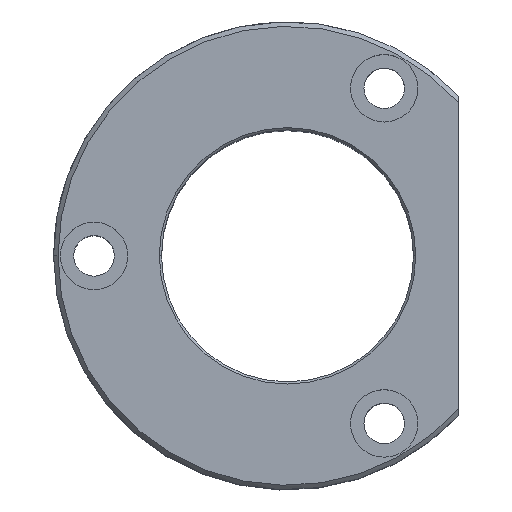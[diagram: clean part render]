
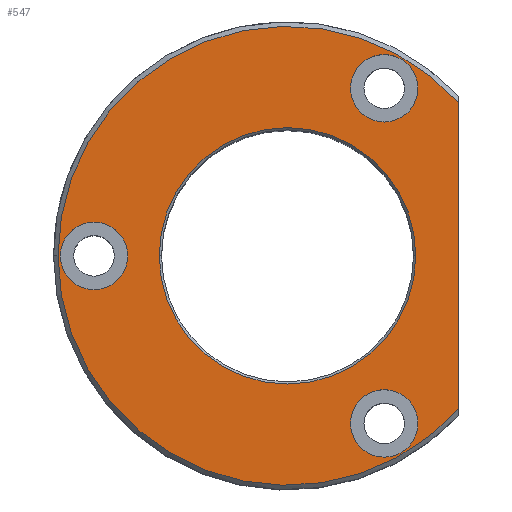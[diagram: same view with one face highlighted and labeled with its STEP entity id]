
A CAD part, top view. The second image highlights one B-rep face of the part: STEP entity #547.
In plain terms, the highlighted planar face has unit normal (0, 0, 1).
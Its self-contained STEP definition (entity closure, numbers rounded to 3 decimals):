
#87=CARTESIAN_POINT('Vertex',(38.,34.015,42.)) ;
#90=CARTESIAN_POINT('Line Origine',(38.,0.,42.)) ;
#94=CARTESIAN_POINT('Vertex',(38.,-34.015,42.)) ;
#445=CARTESIAN_POINT('Vertex',(-51.,0.,42.)) ;
#448=CARTESIAN_POINT('Axis2P3D Location',(0.,0.,42.)) ;
#460=CARTESIAN_POINT('Axis2P3D Location',(28.5,0.,42.)) ;
#465=CARTESIAN_POINT('Axis2P3D Location',(0.,0.,42.)) ;
#475=CARTESIAN_POINT('Axis2P3D Location',(-43.,0.,42.)) ;
#479=CARTESIAN_POINT('Vertex',(-50.5,0.,42.)) ;
#481=CARTESIAN_POINT('Vertex',(-35.5,0.,42.)) ;
#484=CARTESIAN_POINT('Axis2P3D Location',(-43.,0.,42.)) ;
#493=CARTESIAN_POINT('Axis2P3D Location',(21.5,-37.239,42.)) ;
#497=CARTESIAN_POINT('Vertex',(14.,-37.239,42.)) ;
#499=CARTESIAN_POINT('Vertex',(29.,-37.239,42.)) ;
#502=CARTESIAN_POINT('Axis2P3D Location',(21.5,-37.239,42.)) ;
#511=CARTESIAN_POINT('Axis2P3D Location',(21.5,37.239,42.)) ;
#515=CARTESIAN_POINT('Vertex',(14.,37.239,42.)) ;
#517=CARTESIAN_POINT('Vertex',(29.,37.239,42.)) ;
#520=CARTESIAN_POINT('Axis2P3D Location',(21.5,37.239,42.)) ;
#529=CARTESIAN_POINT('Axis2P3D Location',(0.,0.,42.)) ;
#533=CARTESIAN_POINT('Vertex',(-28.5,0.,42.)) ;
#535=CARTESIAN_POINT('Vertex',(28.5,0.,42.)) ;
#538=CARTESIAN_POINT('Axis2P3D Location',(0.,0.,42.)) ;
#91=DIRECTION('Vector Direction',(0.,-1.,0.)) ;
#449=DIRECTION('Axis2P3D Direction',(0.,0.,-1.)) ;
#461=DIRECTION('Axis2P3D Direction',(0.,-0.,1.)) ;
#462=DIRECTION('Axis2P3D XDirection',(1.,0.,0.)) ;
#466=DIRECTION('Axis2P3D Direction',(0.,-0.,1.)) ;
#476=DIRECTION('Axis2P3D Direction',(0.,-0.,1.)) ;
#485=DIRECTION('Axis2P3D Direction',(0.,-0.,1.)) ;
#494=DIRECTION('Axis2P3D Direction',(0.,-0.,1.)) ;
#503=DIRECTION('Axis2P3D Direction',(0.,-0.,1.)) ;
#512=DIRECTION('Axis2P3D Direction',(0.,-0.,1.)) ;
#521=DIRECTION('Axis2P3D Direction',(0.,-0.,1.)) ;
#530=DIRECTION('Axis2P3D Direction',(0.,-0.,1.)) ;
#539=DIRECTION('Axis2P3D Direction',(0.,-0.,1.)) ;
#450=AXIS2_PLACEMENT_3D('Circle Axis2P3D',#448,#449,$) ;
#463=AXIS2_PLACEMENT_3D('Plane Axis2P3D',#460,#461,#462) ;
#467=AXIS2_PLACEMENT_3D('Circle Axis2P3D',#465,#466,$) ;
#477=AXIS2_PLACEMENT_3D('Circle Axis2P3D',#475,#476,$) ;
#486=AXIS2_PLACEMENT_3D('Circle Axis2P3D',#484,#485,$) ;
#495=AXIS2_PLACEMENT_3D('Circle Axis2P3D',#493,#494,$) ;
#504=AXIS2_PLACEMENT_3D('Circle Axis2P3D',#502,#503,$) ;
#513=AXIS2_PLACEMENT_3D('Circle Axis2P3D',#511,#512,$) ;
#522=AXIS2_PLACEMENT_3D('Circle Axis2P3D',#520,#521,$) ;
#531=AXIS2_PLACEMENT_3D('Circle Axis2P3D',#529,#530,$) ;
#540=AXIS2_PLACEMENT_3D('Circle Axis2P3D',#538,#539,$) ;
#471=ORIENTED_EDGE('',*,*,#96,.F.) ;
#472=ORIENTED_EDGE('',*,*,#452,.T.) ;
#473=ORIENTED_EDGE('',*,*,#469,.T.) ;
#490=ORIENTED_EDGE('',*,*,#483,.F.) ;
#491=ORIENTED_EDGE('',*,*,#488,.F.) ;
#508=ORIENTED_EDGE('',*,*,#501,.F.) ;
#509=ORIENTED_EDGE('',*,*,#506,.F.) ;
#526=ORIENTED_EDGE('',*,*,#519,.F.) ;
#527=ORIENTED_EDGE('',*,*,#524,.F.) ;
#544=ORIENTED_EDGE('',*,*,#537,.F.) ;
#545=ORIENTED_EDGE('',*,*,#542,.F.) ;
#492=FACE_BOUND('',#489,.T.) ;
#510=FACE_BOUND('',#507,.T.) ;
#528=FACE_BOUND('',#525,.T.) ;
#546=FACE_BOUND('',#543,.T.) ;
#92=VECTOR('Line Direction',#91,1.) ;
#547=ADVANCED_FACE('737-48',(#474,#492,#510,#528,#546),#464,.T.) ;
#451=CIRCLE('generated circle',#450,51.) ;
#468=CIRCLE('generated circle',#467,51.) ;
#478=CIRCLE('generated circle',#477,7.5) ;
#487=CIRCLE('generated circle',#486,7.5) ;
#496=CIRCLE('generated circle',#495,7.5) ;
#505=CIRCLE('generated circle',#504,7.5) ;
#514=CIRCLE('generated circle',#513,7.5) ;
#523=CIRCLE('generated circle',#522,7.5) ;
#532=CIRCLE('generated circle',#531,28.5) ;
#541=CIRCLE('generated circle',#540,28.5) ;
#96=EDGE_CURVE('',#88,#95,#93,.T.) ;
#452=EDGE_CURVE('',#88,#446,#451,.F.) ;
#469=EDGE_CURVE('',#446,#95,#468,.T.) ;
#483=EDGE_CURVE('',#480,#482,#478,.T.) ;
#488=EDGE_CURVE('',#482,#480,#487,.T.) ;
#501=EDGE_CURVE('',#498,#500,#496,.T.) ;
#506=EDGE_CURVE('',#500,#498,#505,.T.) ;
#519=EDGE_CURVE('',#516,#518,#514,.T.) ;
#524=EDGE_CURVE('',#518,#516,#523,.T.) ;
#537=EDGE_CURVE('',#534,#536,#532,.T.) ;
#542=EDGE_CURVE('',#536,#534,#541,.T.) ;
#470=EDGE_LOOP('',(#471,#472,#473)) ;
#489=EDGE_LOOP('',(#490,#491)) ;
#507=EDGE_LOOP('',(#508,#509)) ;
#525=EDGE_LOOP('',(#526,#527)) ;
#543=EDGE_LOOP('',(#544,#545)) ;
#474=FACE_OUTER_BOUND('',#470,.T.) ;
#93=LINE('Line',#90,#92) ;
#464=PLANE('Plane',#463) ;
#88=VERTEX_POINT('',#87) ;
#95=VERTEX_POINT('',#94) ;
#446=VERTEX_POINT('',#445) ;
#480=VERTEX_POINT('',#479) ;
#482=VERTEX_POINT('',#481) ;
#498=VERTEX_POINT('',#497) ;
#500=VERTEX_POINT('',#499) ;
#516=VERTEX_POINT('',#515) ;
#518=VERTEX_POINT('',#517) ;
#534=VERTEX_POINT('',#533) ;
#536=VERTEX_POINT('',#535) ;
